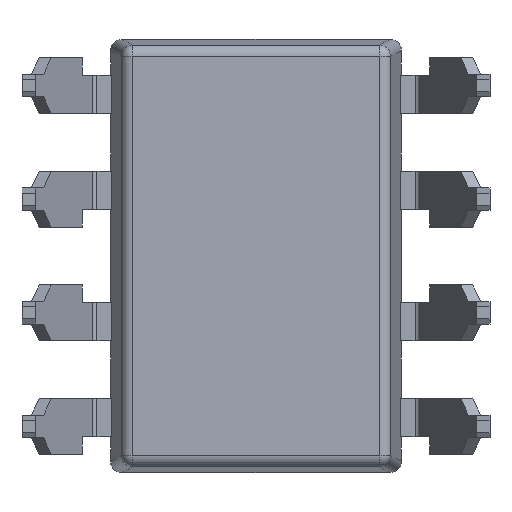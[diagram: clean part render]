
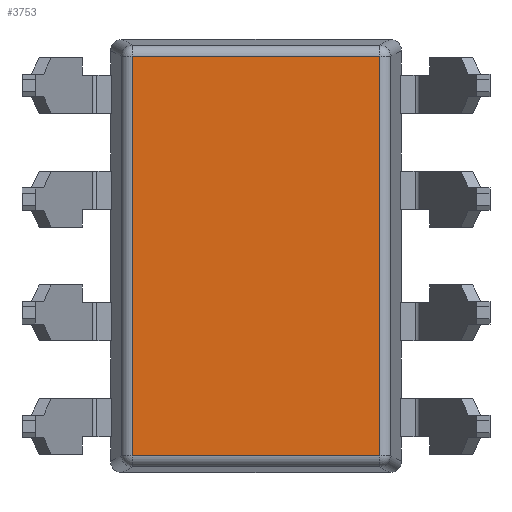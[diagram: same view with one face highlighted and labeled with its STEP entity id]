
A CAD part, front view. The second image highlights one B-rep face of the part: STEP entity #3753.
In plain terms, the highlighted planar face has unit normal (0, -1, 0).
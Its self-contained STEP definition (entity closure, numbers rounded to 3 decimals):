
#254=FACE_OUTER_BOUND('',#449,.T.);
#449=EDGE_LOOP('',(#2865,#2866,#2867,#2868));
#934=LINE('',#5898,#1409);
#935=LINE('',#5900,#1410);
#936=LINE('',#5902,#1411);
#937=LINE('',#5903,#1412);
#1409=VECTOR('',#4665,5.525);
#1410=VECTOR('',#4666,8.919);
#1411=VECTOR('',#4667,5.525);
#1412=VECTOR('',#4668,8.919);
#1828=VERTEX_POINT('',#5896);
#1829=VERTEX_POINT('',#5897);
#1830=VERTEX_POINT('',#5899);
#1831=VERTEX_POINT('',#5901);
#2250=EDGE_CURVE('',#1828,#1829,#934,.T.);
#2251=EDGE_CURVE('',#1829,#1830,#935,.T.);
#2252=EDGE_CURVE('',#1830,#1831,#936,.T.);
#2253=EDGE_CURVE('',#1831,#1828,#937,.T.);
#2865=ORIENTED_EDGE('',*,*,#2250,.T.);
#2866=ORIENTED_EDGE('',*,*,#2251,.T.);
#2867=ORIENTED_EDGE('',*,*,#2252,.T.);
#2868=ORIENTED_EDGE('',*,*,#2253,.T.);
#3605=PLANE('',#3958);
#3753=ADVANCED_FACE('',(#254),#3605,.T.);
#3958=AXIS2_PLACEMENT_3D('',#5895,#4663,#4664);
#4663=DIRECTION('center_axis',(0.,-1.,0.));
#4664=DIRECTION('ref_axis',(0.,0.,-1.));
#4665=DIRECTION('',(1.,0.,0.));
#4666=DIRECTION('',(0.,0.,1.));
#4667=DIRECTION('',(-1.,0.,0.));
#4668=DIRECTION('',(0.,0.,-1.));
#5895=CARTESIAN_POINT('Origin',(0.,-1.73,0.));
#5896=CARTESIAN_POINT('',(-2.762,-1.73,-4.46));
#5897=CARTESIAN_POINT('',(2.762,-1.73,-4.46));
#5898=CARTESIAN_POINT('',(2.726,-1.73,-4.46));
#5899=CARTESIAN_POINT('',(2.762,-1.73,4.46));
#5900=CARTESIAN_POINT('',(2.762,-1.73,4.441));
#5901=CARTESIAN_POINT('',(-2.762,-1.73,4.46));
#5902=CARTESIAN_POINT('',(-2.726,-1.73,4.46));
#5903=CARTESIAN_POINT('',(-2.762,-1.73,0.));
